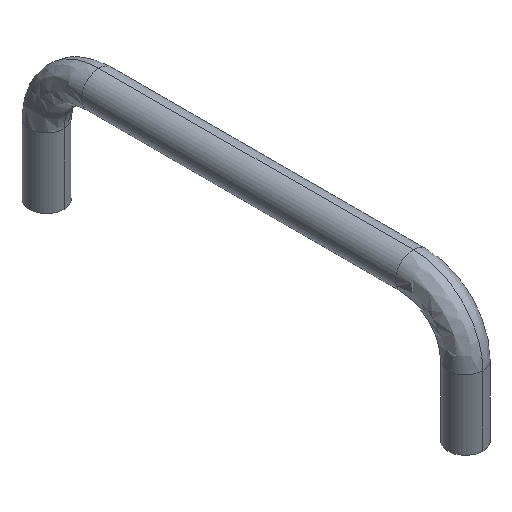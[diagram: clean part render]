
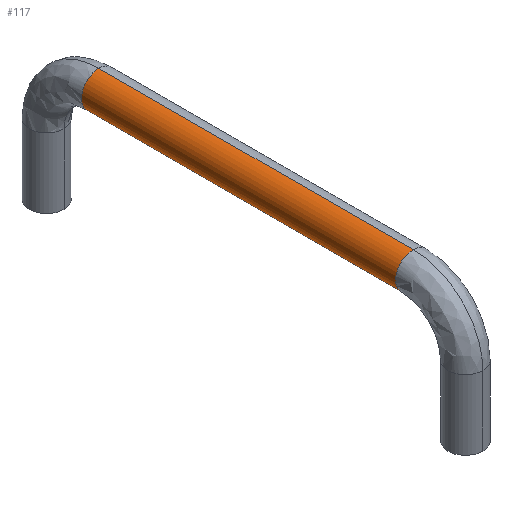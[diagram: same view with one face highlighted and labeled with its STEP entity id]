
A CAD part, isometric view. The second image highlights one B-rep face of the part: STEP entity #117.
In plain terms, the highlighted cylindrical face has radius 5 mm (diameter 10 mm), a partial arc.
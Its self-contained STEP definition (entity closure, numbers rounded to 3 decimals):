
#9 = DIRECTION ( 'NONE',  ( 0., -1., 0. ) ) ;
#17 = DIRECTION ( 'NONE',  ( 0., 0., 1. ) ) ;
#24 = ORIENTED_EDGE ( 'NONE', *, *, #353, .T. ) ;
#33 = DIRECTION ( 'NONE',  ( 0., -1., 0. ) ) ;
#39 = CARTESIAN_POINT ( 'NONE',  ( 60., -45., 35. ) ) ;
#51 = VERTEX_POINT ( 'NONE', #142 ) ;
#52 = VERTEX_POINT ( 'NONE', #203 ) ;
#53 = VECTOR ( 'NONE', #33, 1000. ) ;
#68 = VERTEX_POINT ( 'NONE', #160 ) ;
#76 = CARTESIAN_POINT ( 'NONE',  ( 60., 0., 40. ) ) ;
#90 = EDGE_CURVE ( 'NONE', #68, #51, #257, .T. ) ;
#93 = ORIENTED_EDGE ( 'NONE', *, *, #106, .T. ) ;
#99 = ORIENTED_EDGE ( 'NONE', *, *, #398, .T. ) ;
#106 = EDGE_CURVE ( 'NONE', #52, #308, #163, .T. ) ;
#117 = ADVANCED_FACE ( 'NONE', ( #169 ), #296, .T. ) ;
#142 = CARTESIAN_POINT ( 'NONE',  ( 60., -45., 40. ) ) ;
#152 = DIRECTION ( 'NONE',  ( 0., -1., 0. ) ) ;
#160 = CARTESIAN_POINT ( 'NONE',  ( 60., 45., 40. ) ) ;
#163 = LINE ( 'NONE', #426, #53 ) ;
#169 = FACE_OUTER_BOUND ( 'NONE', #269, .T. ) ;
#182 = CARTESIAN_POINT ( 'NONE',  ( 60., 0., 35. ) ) ;
#203 = CARTESIAN_POINT ( 'NONE',  ( 60., 45., 30. ) ) ;
#221 = CARTESIAN_POINT ( 'NONE',  ( 60., 45., 35. ) ) ;
#234 = DIRECTION ( 'NONE',  ( 0., 0., 1. ) ) ;
#242 = AXIS2_PLACEMENT_3D ( 'NONE', #221, #9, #339 ) ;
#249 = AXIS2_PLACEMENT_3D ( 'NONE', #39, #283, #234 ) ;
#257 = LINE ( 'NONE', #76, #290 ) ;
#262 = CIRCLE ( 'NONE', #249, 5. ) ;
#269 = EDGE_LOOP ( 'NONE', ( #99, #93, #24, #354 ) ) ;
#283 = DIRECTION ( 'NONE',  ( 0., 1., 0. ) ) ;
#290 = VECTOR ( 'NONE', #343, 1000. ) ;
#296 = CYLINDRICAL_SURFACE ( 'NONE', #336, 5. ) ;
#308 = VERTEX_POINT ( 'NONE', #364 ) ;
#322 = CIRCLE ( 'NONE', #242, 5. ) ;
#336 = AXIS2_PLACEMENT_3D ( 'NONE', #182, #152, #17 ) ;
#339 = DIRECTION ( 'NONE',  ( 0., 0., 1. ) ) ;
#343 = DIRECTION ( 'NONE',  ( 0., -1., 0. ) ) ;
#353 = EDGE_CURVE ( 'NONE', #308, #51, #262, .T. ) ;
#354 = ORIENTED_EDGE ( 'NONE', *, *, #90, .F. ) ;
#364 = CARTESIAN_POINT ( 'NONE',  ( 60., -45., 30. ) ) ;
#398 = EDGE_CURVE ( 'NONE', #68, #52, #322, .T. ) ;
#426 = CARTESIAN_POINT ( 'NONE',  ( 60., 0., 30. ) ) ;
